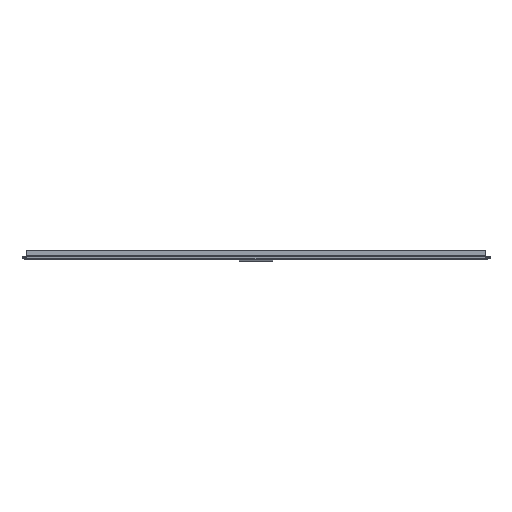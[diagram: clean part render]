
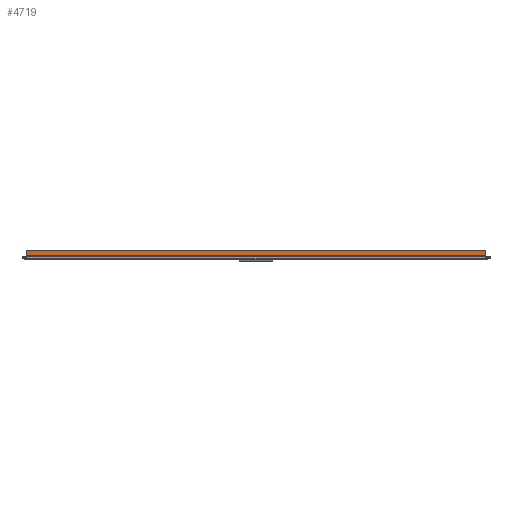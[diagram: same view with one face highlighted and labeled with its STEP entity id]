
A CAD part, left-side view. The second image highlights one B-rep face of the part: STEP entity #4719.
In plain terms, the highlighted planar face has unit normal (-1, 0, 0).
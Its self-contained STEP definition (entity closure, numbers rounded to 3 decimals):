
#79 = VECTOR ( 'NONE', #5569, 1000. ) ;
#293 = VECTOR ( 'NONE', #6214, 1000. ) ;
#298 = VECTOR ( 'NONE', #6226, 1000. ) ;
#299 = VECTOR ( 'NONE', #6232, 1000. ) ;
#1356 = FACE_OUTER_BOUND ( 'NONE', #1542, .T. ) ;
#1360 = AXIS2_PLACEMENT_3D ( 'NONE', #7968, #7969, #7970 ) ;
#1542 = EDGE_LOOP ( 'NONE', ( #3071, #3072, #3070, #3073 ) ) ;
#2620 = VERTEX_POINT ( 'NONE', #3555 ) ;
#2622 = VERTEX_POINT ( 'NONE', #3557 ) ;
#2783 = VERTEX_POINT ( 'NONE', #3718 ) ;
#2784 = VERTEX_POINT ( 'NONE', #3719 ) ;
#3070 = ORIENTED_EDGE ( 'NONE', *, *, #4167, .F. ) ;
#3071 = ORIENTED_EDGE ( 'NONE', *, *, #3946, .T. ) ;
#3072 = ORIENTED_EDGE ( 'NONE', *, *, #4165, .F. ) ;
#3073 = ORIENTED_EDGE ( 'NONE', *, *, #4161, .T. ) ;
#3555 = CARTESIAN_POINT ( 'NONE',  ( -324.6, 1056.75, -12. ) ) ;
#3557 = CARTESIAN_POINT ( 'NONE',  ( -324.6, -1056.75, -12. ) ) ;
#3718 = CARTESIAN_POINT ( 'NONE',  ( -324.6, 1056.75, 29.5 ) ) ;
#3719 = CARTESIAN_POINT ( 'NONE',  ( -324.6, -1056.75, 29.5 ) ) ;
#3946 = EDGE_CURVE ( 'NONE', #2620, #2622, #5567, .T. ) ;
#4161 = EDGE_CURVE ( 'NONE', #2783, #2620, #6212, .T. ) ;
#4165 = EDGE_CURVE ( 'NONE', #2784, #2622, #6224, .T. ) ;
#4167 = EDGE_CURVE ( 'NONE', #2783, #2784, #6230, .T. ) ;
#4719 = ADVANCED_FACE ( 'NONE', ( #1356 ), #7967, .F. ) ;
#5567 = LINE ( 'NONE', #5568, #79 ) ;
#5568 = CARTESIAN_POINT ( 'NONE',  ( -324.6, -1056.75, -12. ) ) ;
#5569 = DIRECTION ( 'NONE',  ( 0., -1., 0. ) ) ;
#6212 = LINE ( 'NONE', #6213, #293 ) ;
#6213 = CARTESIAN_POINT ( 'NONE',  ( -324.6, 1056.75, 29.5 ) ) ;
#6214 = DIRECTION ( 'NONE',  ( 0., 0., -1. ) ) ;
#6224 = LINE ( 'NONE', #6225, #298 ) ;
#6225 = CARTESIAN_POINT ( 'NONE',  ( -324.6, -1056.75, 29.5 ) ) ;
#6226 = DIRECTION ( 'NONE',  ( 0., 0., -1. ) ) ;
#6230 = LINE ( 'NONE', #6231, #299 ) ;
#6231 = CARTESIAN_POINT ( 'NONE',  ( -324.6, -1056.75, 29.5 ) ) ;
#6232 = DIRECTION ( 'NONE',  ( 0., -1., 0. ) ) ;
#7967 = PLANE ( 'NONE',  #1360 ) ;
#7968 = CARTESIAN_POINT ( 'NONE',  ( -324.6, -1056.75, 29.5 ) ) ;
#7969 = DIRECTION ( 'NONE',  ( 1., 0., 0. ) ) ;
#7970 = DIRECTION ( 'NONE',  ( 0., 0., -1. ) ) ;
